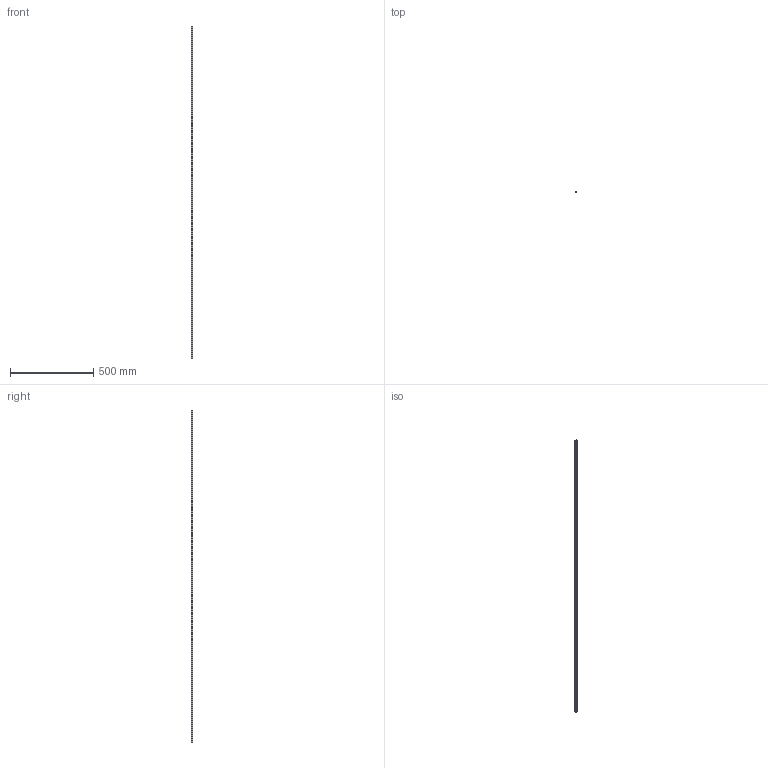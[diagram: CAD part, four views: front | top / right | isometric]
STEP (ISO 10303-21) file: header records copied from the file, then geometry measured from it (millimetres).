
FILE_DESCRIPTION (( 'STEP AP203' ), '1' );
FILE_NAME ('413022_Abdeckprofil Nut 10, taubenblau RAL 5014, L=2000mm.step', '2022-06-10T10:11:59', ( '' ), ( '' ), 'SwSTEP 2.0', 'SolidWorks 2021', '' );
FILE_SCHEMA (( 'CONFIG_CONTROL_DESIGN' ));
Length unit declared in the file: millimetre
Products named in the file (1): 413022_Abdeckprofil Nut 10, taubenblau RAL 5014, L=2000mm
Bounding box: 11.6 x 7.5 x 2000 mm (x, y, z)
Volume: 59633.9 mm3; surface area: 97984.1 mm2
Topology: 1 solids, 1 shells, 20 faces, 54 edges, 36 vertices
Faces by surface type: plane 14, cylinder 6
Entity records: 707 total; most frequent: CARTESIAN_POINT 111, ORIENTED_EDGE 108, DIRECTION 108, EDGE_CURVE 54, LINE 42, VECTOR 42, VERTEX_POINT 36, AXIS2_PLACEMENT_3D 33
